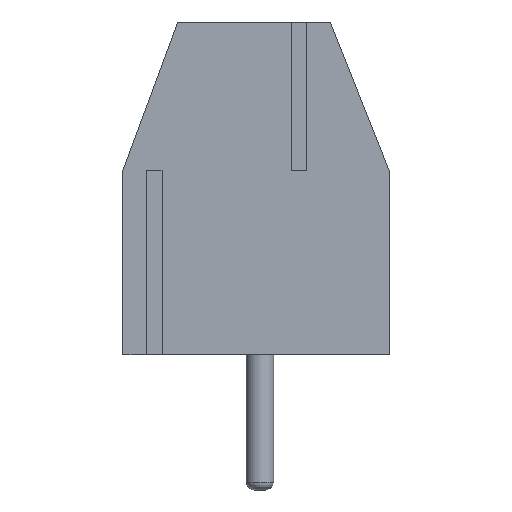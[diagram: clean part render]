
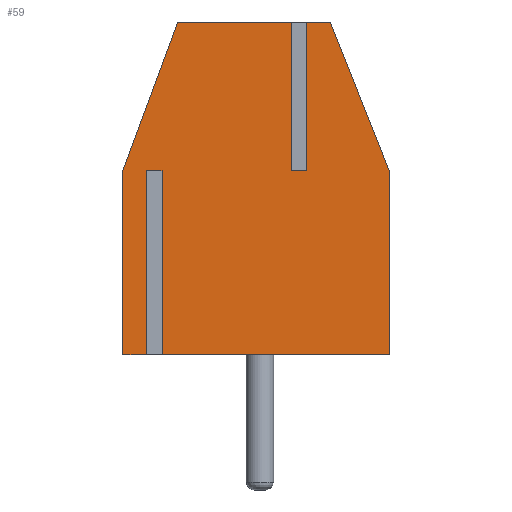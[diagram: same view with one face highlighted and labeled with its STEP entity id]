
A CAD part, left-side view. The second image highlights one B-rep face of the part: STEP entity #59.
In plain terms, the highlighted planar face has unit normal (-1, 0, 0).
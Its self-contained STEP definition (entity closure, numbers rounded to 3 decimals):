
#59 = ADVANCED_FACE('',(#60),#174,.F.);
#60 = FACE_BOUND('',#61,.F.);
#61 = EDGE_LOOP('',(#62,#72,#80,#88,#96,#104,#112,#120,#128,#136,#144,
    #152,#160,#168));
#62 = ORIENTED_EDGE('',*,*,#63,.T.);
#63 = EDGE_CURVE('',#64,#66,#68,.T.);
#64 = VERTEX_POINT('',#65);
#65 = CARTESIAN_POINT('',(0.,-1.8,8.5));
#66 = VERTEX_POINT('',#67);
#67 = CARTESIAN_POINT('',(0.,-3.3,4.7));
#68 = LINE('',#69,#70);
#69 = CARTESIAN_POINT('',(0.,-1.8,8.5));
#70 = VECTOR('',#71,1.);
#71 = DIRECTION('',(0.,-0.367,-0.93));
#72 = ORIENTED_EDGE('',*,*,#73,.T.);
#73 = EDGE_CURVE('',#66,#74,#76,.T.);
#74 = VERTEX_POINT('',#75);
#75 = CARTESIAN_POINT('',(0.,-3.3,0.));
#76 = LINE('',#77,#78);
#77 = CARTESIAN_POINT('',(0.,-3.3,4.7));
#78 = VECTOR('',#79,1.);
#79 = DIRECTION('',(0.,0.,-1.));
#80 = ORIENTED_EDGE('',*,*,#81,.T.);
#81 = EDGE_CURVE('',#74,#82,#84,.T.);
#82 = VERTEX_POINT('',#83);
#83 = CARTESIAN_POINT('',(0.,2.5,0.));
#84 = LINE('',#85,#86);
#85 = CARTESIAN_POINT('',(0.,-3.3,0.));
#86 = VECTOR('',#87,1.);
#87 = DIRECTION('',(0.,1.,0.));
#88 = ORIENTED_EDGE('',*,*,#89,.F.);
#89 = EDGE_CURVE('',#90,#82,#92,.T.);
#90 = VERTEX_POINT('',#91);
#91 = CARTESIAN_POINT('',(0.,2.5,4.7));
#92 = LINE('',#93,#94);
#93 = CARTESIAN_POINT('',(0.,2.5,4.7));
#94 = VECTOR('',#95,1.);
#95 = DIRECTION('',(-0.,-0.,-1.));
#96 = ORIENTED_EDGE('',*,*,#97,.T.);
#97 = EDGE_CURVE('',#90,#98,#100,.T.);
#98 = VERTEX_POINT('',#99);
#99 = CARTESIAN_POINT('',(0.,2.9,4.7));
#100 = LINE('',#101,#102);
#101 = CARTESIAN_POINT('',(0.,2.5,4.7));
#102 = VECTOR('',#103,1.);
#103 = DIRECTION('',(0.,1.,0.));
#104 = ORIENTED_EDGE('',*,*,#105,.T.);
#105 = EDGE_CURVE('',#98,#106,#108,.T.);
#106 = VERTEX_POINT('',#107);
#107 = CARTESIAN_POINT('',(0.,2.9,0.));
#108 = LINE('',#109,#110);
#109 = CARTESIAN_POINT('',(0.,2.9,4.7));
#110 = VECTOR('',#111,1.);
#111 = DIRECTION('',(-0.,-0.,-1.));
#112 = ORIENTED_EDGE('',*,*,#113,.T.);
#113 = EDGE_CURVE('',#106,#114,#116,.T.);
#114 = VERTEX_POINT('',#115);
#115 = CARTESIAN_POINT('',(0.,3.5,0.));
#116 = LINE('',#117,#118);
#117 = CARTESIAN_POINT('',(0.,-3.3,0.));
#118 = VECTOR('',#119,1.);
#119 = DIRECTION('',(0.,1.,0.));
#120 = ORIENTED_EDGE('',*,*,#121,.T.);
#121 = EDGE_CURVE('',#114,#122,#124,.T.);
#122 = VERTEX_POINT('',#123);
#123 = CARTESIAN_POINT('',(0.,3.5,4.7));
#124 = LINE('',#125,#126);
#125 = CARTESIAN_POINT('',(0.,3.5,0.));
#126 = VECTOR('',#127,1.);
#127 = DIRECTION('',(0.,0.,1.));
#128 = ORIENTED_EDGE('',*,*,#129,.T.);
#129 = EDGE_CURVE('',#122,#130,#132,.T.);
#130 = VERTEX_POINT('',#131);
#131 = CARTESIAN_POINT('',(0.,2.1,8.5));
#132 = LINE('',#133,#134);
#133 = CARTESIAN_POINT('',(0.,3.5,4.7));
#134 = VECTOR('',#135,1.);
#135 = DIRECTION('',(0.,-0.346,0.938));
#136 = ORIENTED_EDGE('',*,*,#137,.T.);
#137 = EDGE_CURVE('',#130,#138,#140,.T.);
#138 = VERTEX_POINT('',#139);
#139 = CARTESIAN_POINT('',(0.,-0.92,8.5));
#140 = LINE('',#141,#142);
#141 = CARTESIAN_POINT('',(0.,2.1,8.5));
#142 = VECTOR('',#143,1.);
#143 = DIRECTION('',(0.,-1.,0.));
#144 = ORIENTED_EDGE('',*,*,#145,.F.);
#145 = EDGE_CURVE('',#146,#138,#148,.T.);
#146 = VERTEX_POINT('',#147);
#147 = CARTESIAN_POINT('',(0.,-0.92,4.7));
#148 = LINE('',#149,#150);
#149 = CARTESIAN_POINT('',(0.,-0.92,4.7));
#150 = VECTOR('',#151,1.);
#151 = DIRECTION('',(0.,0.,1.));
#152 = ORIENTED_EDGE('',*,*,#153,.F.);
#153 = EDGE_CURVE('',#154,#146,#156,.T.);
#154 = VERTEX_POINT('',#155);
#155 = CARTESIAN_POINT('',(0.,-1.08,4.7));
#156 = LINE('',#157,#158);
#157 = CARTESIAN_POINT('',(0.,-1.08,4.7));
#158 = VECTOR('',#159,1.);
#159 = DIRECTION('',(0.,1.,0.));
#160 = ORIENTED_EDGE('',*,*,#161,.T.);
#161 = EDGE_CURVE('',#154,#162,#164,.T.);
#162 = VERTEX_POINT('',#163);
#163 = CARTESIAN_POINT('',(0.,-1.08,8.5));
#164 = LINE('',#165,#166);
#165 = CARTESIAN_POINT('',(0.,-1.08,4.7));
#166 = VECTOR('',#167,1.);
#167 = DIRECTION('',(0.,0.,1.));
#168 = ORIENTED_EDGE('',*,*,#169,.T.);
#169 = EDGE_CURVE('',#162,#64,#170,.T.);
#170 = LINE('',#171,#172);
#171 = CARTESIAN_POINT('',(0.,2.1,8.5));
#172 = VECTOR('',#173,1.);
#173 = DIRECTION('',(0.,-1.,0.));
#174 = PLANE('',#175);
#175 = AXIS2_PLACEMENT_3D('',#176,#177,#178);
#176 = CARTESIAN_POINT('',(0.,0.111,3.858));
#177 = DIRECTION('',(1.,0.,0.));
#178 = DIRECTION('',(0.,0.,1.));
